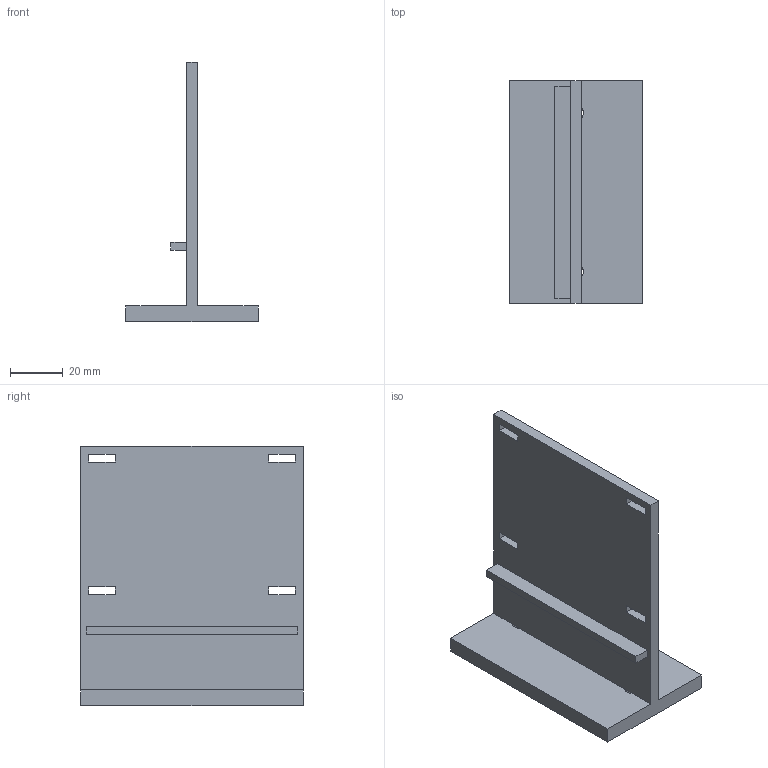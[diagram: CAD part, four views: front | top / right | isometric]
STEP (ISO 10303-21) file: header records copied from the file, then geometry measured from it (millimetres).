
FILE_DESCRIPTION(('Open CASCADE Model'),'2;1');
FILE_NAME('Open CASCADE Shape Model','2026-10-08T14:17:54',('Author'),( 'Open CASCADE'),'Open CASCADE STEP processor 7.9','Open CASCADE 7.9' ,'Unknown');
FILE_SCHEMA(('AUTOMOTIVE_DESIGN { 1 0 10303 214 1 1 1 1 }'));
Length unit declared in the file: millimetre
Products named in the file (1): Open CASCADE STEP translator 7.9 13
Bounding box: 50 x 84 x 98 mm (x, y, z)
Volume: 56776.4 mm3; surface area: 27565.8 mm2
Topology: 1 solids, 1 shells, 35 faces, 106 edges, 68 vertices
Faces by surface type: plane 33, cylinder 2
Full cylindrical faces by diameter (mm): 5.6 x2
Entity records: 2552 total; most frequent: CARTESIAN_POINT 566, DIRECTION 318, LINE 222, VECTOR 222, ORIENTED_EDGE 212, PCURVE 212, DEFINITIONAL_REPRESENTATION 212, EDGE_CURVE 106
